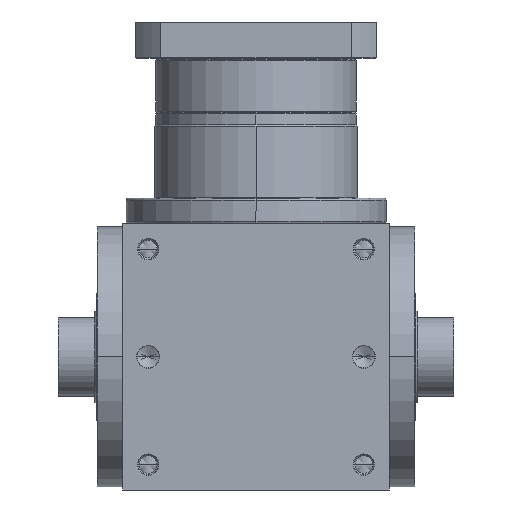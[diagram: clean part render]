
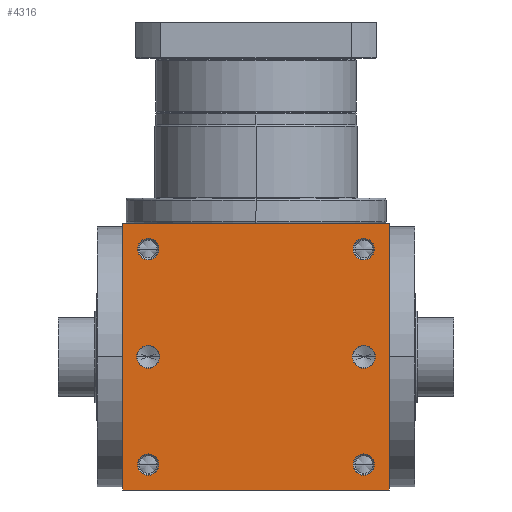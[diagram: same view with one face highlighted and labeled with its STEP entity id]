
A CAD part, front view. The second image highlights one B-rep face of the part: STEP entity #4316.
In plain terms, the highlighted planar face has unit normal (0, -1, 0).
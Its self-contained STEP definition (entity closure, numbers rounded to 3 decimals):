
#5=DIRECTION('',(1.,0.,0.));
#6=VECTOR('',#5,210.);
#7=CARTESIAN_POINT('',(-105.,-105.,-105.));
#8=LINE('',#7,#6);
#155=DIRECTION('',(0.,0.,1.));
#156=VECTOR('',#155,210.);
#157=CARTESIAN_POINT('',(105.,-105.,-105.));
#158=LINE('',#157,#156);
#209=DIRECTION('',(0.,0.,1.));
#210=VECTOR('',#209,210.);
#211=CARTESIAN_POINT('',(-105.,-105.,-105.));
#212=LINE('',#211,#210);
#213=CARTESIAN_POINT('',(85.,-105.,85.));
#214=DIRECTION('',(0.,1.,0.));
#215=DIRECTION('',(-1.,0.,0.));
#216=AXIS2_PLACEMENT_3D('',#213,#214,#215);
#218=CARTESIAN_POINT('',(85.,-105.,85.));
#219=DIRECTION('',(0.,1.,0.));
#220=DIRECTION('',(1.,0.,0.));
#221=AXIS2_PLACEMENT_3D('',#218,#219,#220);
#223=CARTESIAN_POINT('',(-85.,-105.,85.));
#224=DIRECTION('',(0.,1.,0.));
#225=DIRECTION('',(-1.,0.,0.));
#226=AXIS2_PLACEMENT_3D('',#223,#224,#225);
#228=CARTESIAN_POINT('',(-85.,-105.,85.));
#229=DIRECTION('',(0.,1.,0.));
#230=DIRECTION('',(1.,0.,0.));
#231=AXIS2_PLACEMENT_3D('',#228,#229,#230);
#233=CARTESIAN_POINT('',(85.,-105.,-85.));
#234=DIRECTION('',(0.,1.,0.));
#235=DIRECTION('',(-1.,0.,0.));
#236=AXIS2_PLACEMENT_3D('',#233,#234,#235);
#238=CARTESIAN_POINT('',(85.,-105.,-85.));
#239=DIRECTION('',(0.,1.,0.));
#240=DIRECTION('',(1.,0.,0.));
#241=AXIS2_PLACEMENT_3D('',#238,#239,#240);
#243=CARTESIAN_POINT('',(-85.,-105.,-85.));
#244=DIRECTION('',(0.,1.,0.));
#245=DIRECTION('',(-1.,0.,0.));
#246=AXIS2_PLACEMENT_3D('',#243,#244,#245);
#248=CARTESIAN_POINT('',(-85.,-105.,-85.));
#249=DIRECTION('',(0.,1.,0.));
#250=DIRECTION('',(1.,0.,0.));
#251=AXIS2_PLACEMENT_3D('',#248,#249,#250);
#253=CARTESIAN_POINT('',(-85.,-105.,0.));
#254=DIRECTION('',(0.,1.,0.));
#255=DIRECTION('',(1.,0.,0.));
#256=AXIS2_PLACEMENT_3D('',#253,#254,#255);
#258=CARTESIAN_POINT('',(-85.,-105.,0.));
#259=DIRECTION('',(0.,1.,0.));
#260=DIRECTION('',(-1.,0.,0.));
#261=AXIS2_PLACEMENT_3D('',#258,#259,#260);
#263=CARTESIAN_POINT('',(85.,-105.,0.));
#264=DIRECTION('',(0.,1.,0.));
#265=DIRECTION('',(1.,0.,0.));
#266=AXIS2_PLACEMENT_3D('',#263,#264,#265);
#268=CARTESIAN_POINT('',(85.,-105.,0.));
#269=DIRECTION('',(0.,1.,0.));
#270=DIRECTION('',(-1.,0.,0.));
#271=AXIS2_PLACEMENT_3D('',#268,#269,#270);
#285=DIRECTION('',(1.,0.,0.));
#286=VECTOR('',#285,210.);
#287=CARTESIAN_POINT('',(-105.,-105.,105.));
#288=LINE('',#287,#286);
#3482=CARTESIAN_POINT('',(-105.,-105.,-105.));
#3484=VERTEX_POINT('',#3482);
#3485=CARTESIAN_POINT('',(105.,-105.,-105.));
#3486=VERTEX_POINT('',#3485);
#3490=CARTESIAN_POINT('',(-105.,-105.,105.));
#3492=VERTEX_POINT('',#3490);
#3493=CARTESIAN_POINT('',(105.,-105.,105.));
#3494=VERTEX_POINT('',#3493);
#3649=CARTESIAN_POINT('',(76.6,-105.,85.));
#3650=CARTESIAN_POINT('',(93.4,-105.,85.));
#3651=VERTEX_POINT('',#3649);
#3652=VERTEX_POINT('',#3650);
#3657=CARTESIAN_POINT('',(-93.4,-105.,85.));
#3658=CARTESIAN_POINT('',(-76.6,-105.,85.));
#3659=VERTEX_POINT('',#3657);
#3660=VERTEX_POINT('',#3658);
#3665=CARTESIAN_POINT('',(76.6,-105.,-85.));
#3666=CARTESIAN_POINT('',(93.4,-105.,-85.));
#3667=VERTEX_POINT('',#3665);
#3668=VERTEX_POINT('',#3666);
#3673=CARTESIAN_POINT('',(-93.4,-105.,-85.));
#3674=CARTESIAN_POINT('',(-76.6,-105.,-85.));
#3675=VERTEX_POINT('',#3673);
#3676=VERTEX_POINT('',#3674);
#3997=CARTESIAN_POINT('',(-75.95,-105.,0.));
#3998=CARTESIAN_POINT('',(-94.05,-105.,
0.));
#3999=VERTEX_POINT('',#3997);
#4000=VERTEX_POINT('',#3998);
#4005=CARTESIAN_POINT('',(94.05,-105.,0.));
#4006=CARTESIAN_POINT('',(75.95,-105.,0.));
#4007=VERTEX_POINT('',#4005);
#4008=VERTEX_POINT('',#4006);
#4268=CARTESIAN_POINT('',(-105.,-105.,-105.));
#4269=DIRECTION('',(0.,-1.,0.));
#4270=DIRECTION('',(1.,0.,0.));
#4271=AXIS2_PLACEMENT_3D('',#4268,#4269,#4270);
#4272=PLANE('',#4271);
#4273=ORIENTED_EDGE('',*,*,#4108,.F.);
#4274=ORIENTED_EDGE('',*,*,#4151,.T.);
#4276=ORIENTED_EDGE('',*,*,#4275,.T.);
#4277=ORIENTED_EDGE('',*,*,#4230,.F.);
#4278=EDGE_LOOP('',(#4273,#4274,#4276,#4277));
#4279=FACE_OUTER_BOUND('',#4278,.F.);
#4281=ORIENTED_EDGE('',*,*,#4280,.F.);
#4283=ORIENTED_EDGE('',*,*,#4282,.F.);
#4284=EDGE_LOOP('',(#4281,#4283));
#4285=FACE_BOUND('',#4284,.F.);
#4287=ORIENTED_EDGE('',*,*,#4286,.F.);
#4289=ORIENTED_EDGE('',*,*,#4288,.F.);
#4290=EDGE_LOOP('',(#4287,#4289));
#4291=FACE_BOUND('',#4290,.F.);
#4293=ORIENTED_EDGE('',*,*,#4292,.F.);
#4295=ORIENTED_EDGE('',*,*,#4294,.F.);
#4296=EDGE_LOOP('',(#4293,#4295));
#4297=FACE_BOUND('',#4296,.F.);
#4299=ORIENTED_EDGE('',*,*,#4298,.F.);
#4301=ORIENTED_EDGE('',*,*,#4300,.F.);
#4302=EDGE_LOOP('',(#4299,#4301));
#4303=FACE_BOUND('',#4302,.F.);
#4305=ORIENTED_EDGE('',*,*,#4304,.F.);
#4307=ORIENTED_EDGE('',*,*,#4306,.F.);
#4308=EDGE_LOOP('',(#4305,#4307));
#4309=FACE_BOUND('',#4308,.F.);
#4311=ORIENTED_EDGE('',*,*,#4310,.F.);
#4313=ORIENTED_EDGE('',*,*,#4312,.F.);
#4314=EDGE_LOOP('',(#4311,#4313));
#4315=FACE_BOUND('',#4314,.F.);
#4316=ADVANCED_FACE('',(#4279,#4285,#4291,#4297,#4303,#4309,#4315),#4272,.T.);
#217=CIRCLE('',#216,8.4);
#222=CIRCLE('',#221,8.4);
#227=CIRCLE('',#226,8.4);
#232=CIRCLE('',#231,8.4);
#237=CIRCLE('',#236,8.4);
#242=CIRCLE('',#241,8.4);
#247=CIRCLE('',#246,8.4);
#252=CIRCLE('',#251,8.4);
#257=CIRCLE('',#256,9.05);
#262=CIRCLE('',#261,9.05);
#267=CIRCLE('',#266,9.05);
#272=CIRCLE('',#271,9.05);
#4108=EDGE_CURVE('',#3484,#3486,#8,.T.);
#4151=EDGE_CURVE('',#3484,#3492,#212,.T.);
#4230=EDGE_CURVE('',#3486,#3494,#158,.T.);
#4275=EDGE_CURVE('',#3492,#3494,#288,.T.);
#4280=EDGE_CURVE('',#3651,#3652,#217,.T.);
#4282=EDGE_CURVE('',#3652,#3651,#222,.T.);
#4286=EDGE_CURVE('',#3659,#3660,#227,.T.);
#4288=EDGE_CURVE('',#3660,#3659,#232,.T.);
#4292=EDGE_CURVE('',#3667,#3668,#237,.T.);
#4294=EDGE_CURVE('',#3668,#3667,#242,.T.);
#4298=EDGE_CURVE('',#3675,#3676,#247,.T.);
#4300=EDGE_CURVE('',#3676,#3675,#252,.T.);
#4304=EDGE_CURVE('',#3999,#4000,#257,.T.);
#4306=EDGE_CURVE('',#4000,#3999,#262,.T.);
#4310=EDGE_CURVE('',#4007,#4008,#267,.T.);
#4312=EDGE_CURVE('',#4008,#4007,#272,.T.);
